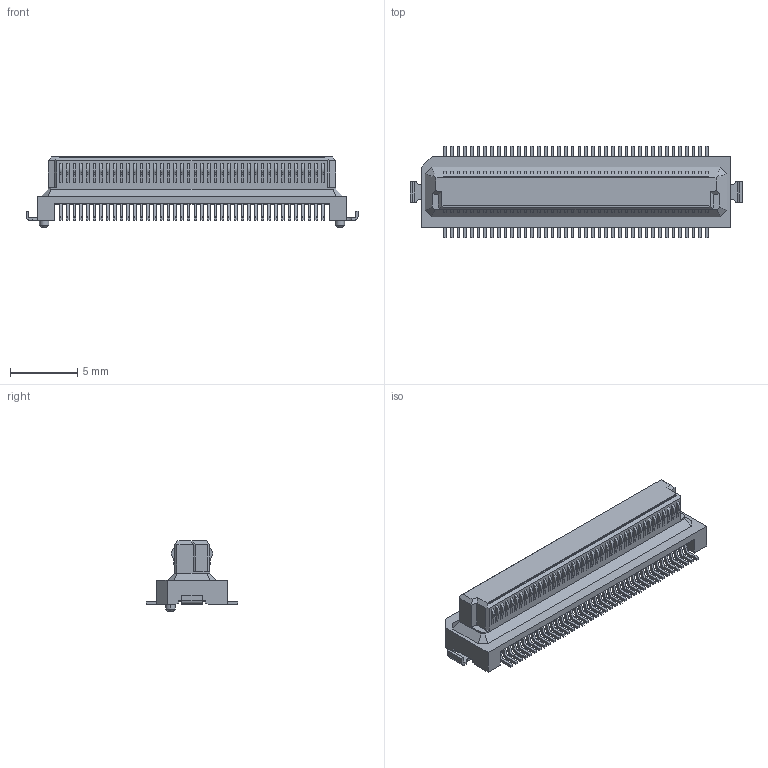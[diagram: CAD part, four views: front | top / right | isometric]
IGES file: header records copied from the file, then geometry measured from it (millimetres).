
Start section: Elysium IGES Interface
Global section: file name: 115HG:\その他\DY関連\CAD\依頼書（ウェブ）_HP用データ\60-36-0120_DY1X-S-2_S-3_S-4_S-5\DY11-080S-2\P39559_DY11-080S-2.igs; native system: Creo Elements/Direct Modeling 20.4A  18-Oct-2021; preprocessor: Creo Element/Direct IGES_3D V2.2; author: Unknown; organization: Unknown; date: 20220224.194057; units: millimetre
Bounding box: 24.7 x 6.8 x 5.23 mm (x, y, z)
Volume: 260 mm3; surface area: 616.4 mm2
Topology: 1 solids, 1 shells, 1254 faces, 3231 edges, 2142 vertices
Faces by surface type: bspline 1254
